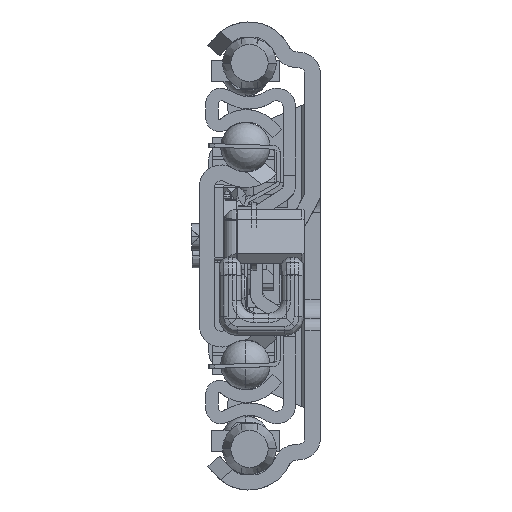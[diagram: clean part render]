
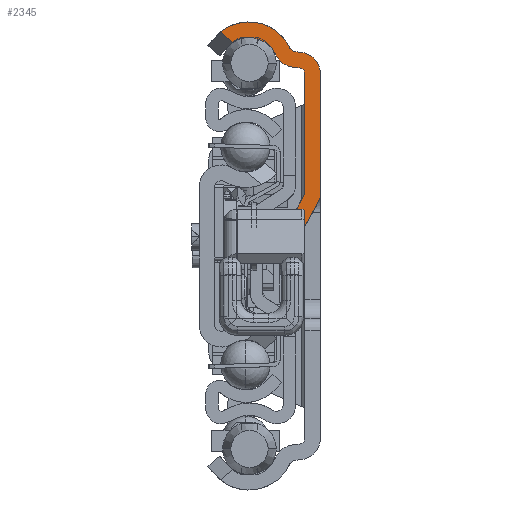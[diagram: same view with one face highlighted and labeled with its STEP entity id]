
A CAD part, left-side view. The second image highlights one B-rep face of the part: STEP entity #2345.
In plain terms, the highlighted planar face has unit normal (-1, 0, 0).
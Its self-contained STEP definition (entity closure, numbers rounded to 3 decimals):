
#1=DIRECTION('',(0.,0.769,0.639));
#2=VECTOR('',#1,2.575);
#3=CARTESIAN_POINT('',(0.,14.098,34.377));
#4=LINE('',#3,#2);
#5=CARTESIAN_POINT('',(0.,16.079,36.021));
#6=CARTESIAN_POINT('',(0.,15.489,36.501));
#7=CARTESIAN_POINT('',(0.,14.228,37.235));
#8=CARTESIAN_POINT('',(0.,12.05,37.743));
#9=CARTESIAN_POINT('',(0.,9.839,37.57));
#10=CARTESIAN_POINT('',(0.,7.778,36.754));
#11=CARTESIAN_POINT('',(0.,6.044,35.337));
#12=CARTESIAN_POINT('',(0.,5.235,34.131));
#13=CARTESIAN_POINT('',(0.,4.911,33.428));
#15=CARTESIAN_POINT('',(0.,4.911,33.428));
#16=CARTESIAN_POINT('',(0.,4.865,33.329));
#17=CARTESIAN_POINT('',(0.,4.73,33.132));
#18=CARTESIAN_POINT('',(0.,4.437,32.93));
#19=CARTESIAN_POINT('',(0.,4.216,32.869));
#20=CARTESIAN_POINT('',(0.,4.095,32.858));
#22=CARTESIAN_POINT('',(0.,3.5,29.293));
#23=DIRECTION('',(1.,0.,0.));
#24=DIRECTION('',(0.,-0.087,0.996));
#25=AXIS2_PLACEMENT_3D('',#22,#23,#24);
#27=DIRECTION('',(0.,0.,-1.));
#28=VECTOR('',#27,19.351);
#29=CARTESIAN_POINT('',(0.,0.,29.293));
#30=LINE('',#29,#28);
#31=CARTESIAN_POINT('',(0.,2.5,9.942));
#32=DIRECTION('',(1.,0.,0.));
#33=DIRECTION('',(0.,-1.,0.));
#34=AXIS2_PLACEMENT_3D('',#31,#32,#33);
#36=DIRECTION('',(0.,0.477,-0.879));
#37=VECTOR('',#36,6.495);
#38=CARTESIAN_POINT('',(0.,0.302,8.751));
#39=LINE('',#38,#37);
#40=CARTESIAN_POINT('',(0.,0.5,1.099));
#41=DIRECTION('',(1.,0.,0.));
#42=DIRECTION('',(0.,0.946,0.324));
#43=AXIS2_PLACEMENT_3D('',#40,#41,#42);
#45=DIRECTION('',(0.,-0.477,0.879));
#46=VECTOR('',#45,6.873);
#47=CARTESIAN_POINT('',(0.,5.775,3.958));
#48=LINE('',#47,#46);
#49=CARTESIAN_POINT('',(0.,3.5,29.293));
#50=DIRECTION('',(-1.,0.,0.));
#51=DIRECTION('',(0.,-1.,0.));
#52=AXIS2_PLACEMENT_3D('',#49,#50,#51);
#54=CARTESIAN_POINT('',(0.,4.008,33.854));
#55=DIRECTION('',(1.,0.,0.));
#56=DIRECTION('',(0.,0.087,-0.996));
#57=AXIS2_PLACEMENT_3D('',#54,#55,#56);
#59=CARTESIAN_POINT('',(0.,11.5,30.4));
#60=DIRECTION('',(-1.,0.,0.));
#61=DIRECTION('',(0.,-0.908,0.419));
#62=AXIS2_PLACEMENT_3D('',#59,#60,#61);
#100=DIRECTION('',(0.,-0.996,-0.087));
#101=VECTOR('',#100,0.904);
#102=CARTESIAN_POINT('',(0.,4.313,30.368));
#103=LINE('',#102,#101);
#116=DIRECTION('',(0.,0.,-1.));
#117=VECTOR('',#116,19.293);
#118=CARTESIAN_POINT('',(0.,2.5,29.293));
#119=LINE('',#118,#117);
#575=DIRECTION('',(0.,0.996,0.087));
#576=VECTOR('',#575,0.904);
#577=CARTESIAN_POINT('',(0.,3.195,
32.78));
#578=LINE('',#577,#576);
#1126=DIRECTION('',(0.,-1.,0.));
#1127=VECTOR('',#1126,2.78);
#1128=CARTESIAN_POINT('',(0.,6.177,3.04));
#1129=LINE('',#1128,#1127);
#1801=CARTESIAN_POINT('',(0.,14.098,
34.377));
#1802=CARTESIAN_POINT('',(0.,16.079,
36.021));
#1803=VERTEX_POINT('',#1801);
#1804=VERTEX_POINT('',#1802);
#1805=VERTEX_POINT('',#13);
#1806=VERTEX_POINT('',#20);
#1807=CARTESIAN_POINT('',(0.,3.195,
32.78));
#1808=VERTEX_POINT('',#1807);
#1809=CARTESIAN_POINT('',(0.,0.,29.293));
#1810=VERTEX_POINT('',#1809);
#1811=CARTESIAN_POINT('',(0.,0.,9.942));
#1812=VERTEX_POINT('',#1811);
#1813=CARTESIAN_POINT('',(0.,0.302,8.751));
#1814=VERTEX_POINT('',#1813);
#1815=CARTESIAN_POINT('',(0.,3.397,3.04));
#1816=VERTEX_POINT('',#1815);
#1817=CARTESIAN_POINT('',(0.,6.177,3.04));
#1818=VERTEX_POINT('',#1817);
#1819=CARTESIAN_POINT('',(0.,5.775,3.958));
#1820=VERTEX_POINT('',#1819);
#1821=CARTESIAN_POINT('',(0.,2.5,10.));
#1822=VERTEX_POINT('',#1821);
#1823=CARTESIAN_POINT('',(0.,2.5,29.293));
#1824=VERTEX_POINT('',#1823);
#1825=CARTESIAN_POINT('',(0.,3.413,30.289));
#1826=VERTEX_POINT('',#1825);
#1827=CARTESIAN_POINT('',(0.,4.313,30.368));
#1828=VERTEX_POINT('',#1827);
#1829=CARTESIAN_POINT('',(0.,7.186,32.389));
#1830=VERTEX_POINT('',#1829);
#2306=CARTESIAN_POINT('',(0.,0.,0.));
#2307=DIRECTION('',(1.,0.,0.));
#2308=DIRECTION('',(0.,-1.,0.));
#2309=AXIS2_PLACEMENT_3D('',#2306,#2307,#2308);
#2310=PLANE('',#2309);
#2312=ORIENTED_EDGE('',*,*,#2311,.T.);
#2314=ORIENTED_EDGE('',*,*,#2313,.T.);
#2316=ORIENTED_EDGE('',*,*,#2315,.T.);
#2318=ORIENTED_EDGE('',*,*,#2317,.F.);
#2320=ORIENTED_EDGE('',*,*,#2319,.T.);
#2322=ORIENTED_EDGE('',*,*,#2321,.T.);
#2324=ORIENTED_EDGE('',*,*,#2323,.T.);
#2326=ORIENTED_EDGE('',*,*,#2325,.T.);
#2328=ORIENTED_EDGE('',*,*,#2327,.F.);
#2330=ORIENTED_EDGE('',*,*,#2329,.T.);
#2332=ORIENTED_EDGE('',*,*,#2331,.T.);
#2334=ORIENTED_EDGE('',*,*,#2333,.F.);
#2336=ORIENTED_EDGE('',*,*,#2335,.T.);
#2338=ORIENTED_EDGE('',*,*,#2337,.F.);
#2340=ORIENTED_EDGE('',*,*,#2339,.T.);
#2342=ORIENTED_EDGE('',*,*,#2341,.T.);
#2343=EDGE_LOOP('',(#2312,#2314,#2316,#2318,#2320,#2322,#2324,#2326,#2328,#2330,
#2332,#2334,#2336,#2338,#2340,#2342));
#2344=FACE_OUTER_BOUND('',#2343,.F.);
#14=B_SPLINE_CURVE_WITH_KNOTS('',3,(#5,#6,#7,#8,#9,#10,#11,#12,#13),
.UNSPECIFIED.,.F.,.F.,(4,1,1,1,1,1,4),(0.,0.167,0.333,
0.5,0.667,0.833,1.),.UNSPECIFIED.);
#21=B_SPLINE_CURVE_WITH_KNOTS('',3,(#15,#16,#17,#18,#19,#20),.UNSPECIFIED.,.F.,
.F.,(4,1,1,4),(0.,0.333,0.667,1.),.UNSPECIFIED.);
#26=CIRCLE('',#25,3.5);
#35=CIRCLE('',#34,2.5);
#44=CIRCLE('',#43,6.);
#53=CIRCLE('',#52,1.);
#58=CIRCLE('',#57,3.5);
#63=CIRCLE('',#62,4.75);
#2311=EDGE_CURVE('',#1803,#1804,#4,.T.);
#2313=EDGE_CURVE('',#1804,#1805,#14,.T.);
#2315=EDGE_CURVE('',#1805,#1806,#21,.T.);
#2317=EDGE_CURVE('',#1808,#1806,#578,.T.);
#2319=EDGE_CURVE('',#1808,#1810,#26,.T.);
#2321=EDGE_CURVE('',#1810,#1812,#30,.T.);
#2323=EDGE_CURVE('',#1812,#1814,#35,.T.);
#2325=EDGE_CURVE('',#1814,#1816,#39,.T.);
#2327=EDGE_CURVE('',#1818,#1816,#1129,.T.);
#2329=EDGE_CURVE('',#1818,#1820,#44,.T.);
#2331=EDGE_CURVE('',#1820,#1822,#48,.T.);
#2333=EDGE_CURVE('',#1824,#1822,#119,.T.);
#2335=EDGE_CURVE('',#1824,#1826,#53,.T.);
#2337=EDGE_CURVE('',#1828,#1826,#103,.T.);
#2339=EDGE_CURVE('',#1828,#1830,#58,.T.);
#2341=EDGE_CURVE('',#1830,#1803,#63,.T.);
#2345=ADVANCED_FACE('',(#2344),#2310,.F.);
